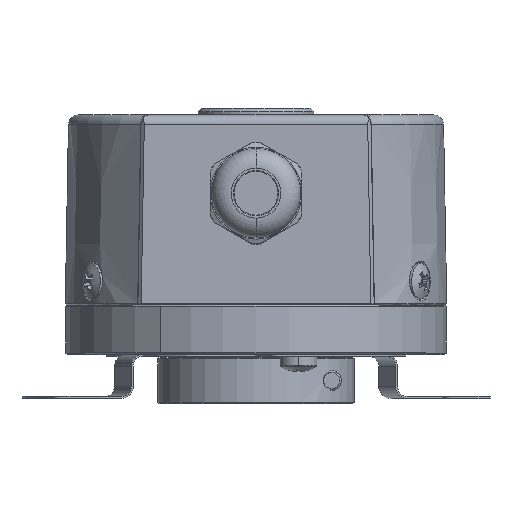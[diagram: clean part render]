
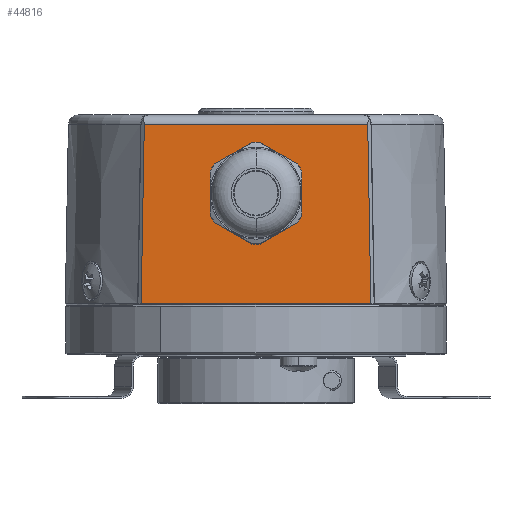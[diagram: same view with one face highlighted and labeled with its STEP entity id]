
A CAD part, top view. The second image highlights one B-rep face of the part: STEP entity #44816.
In plain terms, the highlighted planar face has unit normal (0, 0, 1).
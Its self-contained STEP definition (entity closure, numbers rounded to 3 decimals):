
#581 = CARTESIAN_POINT ( 'NONE',  ( -18.006, 35., 32. ) ) ;
#1938 = DIRECTION ( 'NONE',  ( -1., 0., 0. ) ) ;
#4156 = ORIENTED_EDGE ( 'NONE', *, *, #24265, .F. ) ;
#4577 = CIRCLE ( 'NONE', #7565, 6.8 ) ;
#4631 = VERTEX_POINT ( 'NONE', #12507 ) ;
#5209 = CARTESIAN_POINT ( 'NONE',  ( 17.026, 35., 32. ) ) ;
#5665 = LINE ( 'NONE', #13516, #29563 ) ;
#6468 = EDGE_LOOP ( 'NONE', ( #14372, #36683, #9897, #50934 ) ) ;
#6999 = DIRECTION ( 'NONE',  ( -1., 0., 0. ) ) ;
#7565 = AXIS2_PLACEMENT_3D ( 'NONE', #11132, #38864, #1938 ) ;
#8359 = DIRECTION ( 'NONE',  ( 1., 0., 0. ) ) ;
#8680 = CARTESIAN_POINT ( 'NONE',  ( 17., 36.491, 32. ) ) ;
#9618 = CARTESIAN_POINT ( 'NONE',  ( -18.006, 7.7, 32. ) ) ;
#9897 = ORIENTED_EDGE ( 'NONE', *, *, #27123, .T. ) ;
#11132 = CARTESIAN_POINT ( 'NONE',  ( 0., 24.5, 32. ) ) ;
#12507 = CARTESIAN_POINT ( 'NONE',  ( 17.503, 7.7, 32. ) ) ;
#13456 = VERTEX_POINT ( 'NONE', #34419 ) ;
#13516 = CARTESIAN_POINT ( 'NONE',  ( -17.506, 7.491, 32. ) ) ;
#13680 = VERTEX_POINT ( 'NONE', #20234 ) ;
#14372 = ORIENTED_EDGE ( 'NONE', *, *, #29927, .T. ) ;
#14955 = VERTEX_POINT ( 'NONE', #5209 ) ;
#15349 = EDGE_CURVE ( 'NONE', #14955, #13680, #29948, .T. ) ;
#20234 = CARTESIAN_POINT ( 'NONE',  ( -17.026, 35., 32. ) ) ;
#20672 = VERTEX_POINT ( 'NONE', #31922 ) ;
#22499 = EDGE_CURVE ( 'NONE', #20672, #13456, #41847, .T. ) ;
#22636 = PLANE ( 'NONE',  #38243 ) ;
#24265 = EDGE_CURVE ( 'NONE', #13456, #20672, #4577, .T. ) ;
#24576 = LINE ( 'NONE', #8680, #30221 ) ;
#26159 = CARTESIAN_POINT ( 'NONE',  ( -18.006, 7.5, 32. ) ) ;
#27123 = EDGE_CURVE ( 'NONE', #4631, #14955, #24576, .T. ) ;
#29563 = VECTOR ( 'NONE', #46682, 1000. ) ;
#29927 = EDGE_CURVE ( 'NONE', #13680, #32997, #5665, .T. ) ;
#29948 = LINE ( 'NONE', #581, #38386 ) ;
#30221 = VECTOR ( 'NONE', #32924, 1000. ) ;
#30333 = LINE ( 'NONE', #9618, #32126 ) ;
#30887 = DIRECTION ( 'NONE',  ( 0., 0., 1. ) ) ;
#31922 = CARTESIAN_POINT ( 'NONE',  ( 0., 17.7, 32. ) ) ;
#32126 = VECTOR ( 'NONE', #8359, 1000. ) ;
#32924 = DIRECTION ( 'NONE',  ( -0.017, 1., 0. ) ) ;
#32997 = VERTEX_POINT ( 'NONE', #52989 ) ;
#34419 = CARTESIAN_POINT ( 'NONE',  ( 0., 31.3, 32. ) ) ;
#34954 = ORIENTED_EDGE ( 'NONE', *, *, #22499, .F. ) ;
#35190 = EDGE_CURVE ( 'NONE', #32997, #4631, #30333, .T. ) ;
#35830 = DIRECTION ( 'NONE',  ( 0., 0., -1. ) ) ;
#36683 = ORIENTED_EDGE ( 'NONE', *, *, #35190, .T. ) ;
#38243 = AXIS2_PLACEMENT_3D ( 'NONE', #26159, #35830, #6999 ) ;
#38386 = VECTOR ( 'NONE', #50205, 1000. ) ;
#38864 = DIRECTION ( 'NONE',  ( 0., 0., 1. ) ) ;
#41847 = CIRCLE ( 'NONE', #43576, 6.8 ) ;
#42899 = FACE_OUTER_BOUND ( 'NONE', #6468, .T. ) ;
#43576 = AXIS2_PLACEMENT_3D ( 'NONE', #51169, #30887, #47665 ) ;
#44816 = ADVANCED_FACE ( 'NONE', ( #51540, #42899 ), #22636, .F. ) ;
#46682 = DIRECTION ( 'NONE',  ( -0.017, -1., 0. ) ) ;
#47665 = DIRECTION ( 'NONE',  ( -1., 0., 0. ) ) ;
#50205 = DIRECTION ( 'NONE',  ( -1., 0., 0. ) ) ;
#50934 = ORIENTED_EDGE ( 'NONE', *, *, #15349, .T. ) ;
#51169 = CARTESIAN_POINT ( 'NONE',  ( 0., 24.5, 32. ) ) ;
#51540 = FACE_BOUND ( 'NONE', #51796, .T. ) ;
#51796 = EDGE_LOOP ( 'NONE', ( #4156, #34954 ) ) ;
#52989 = CARTESIAN_POINT ( 'NONE',  ( -17.503, 7.7, 32. ) ) ;
